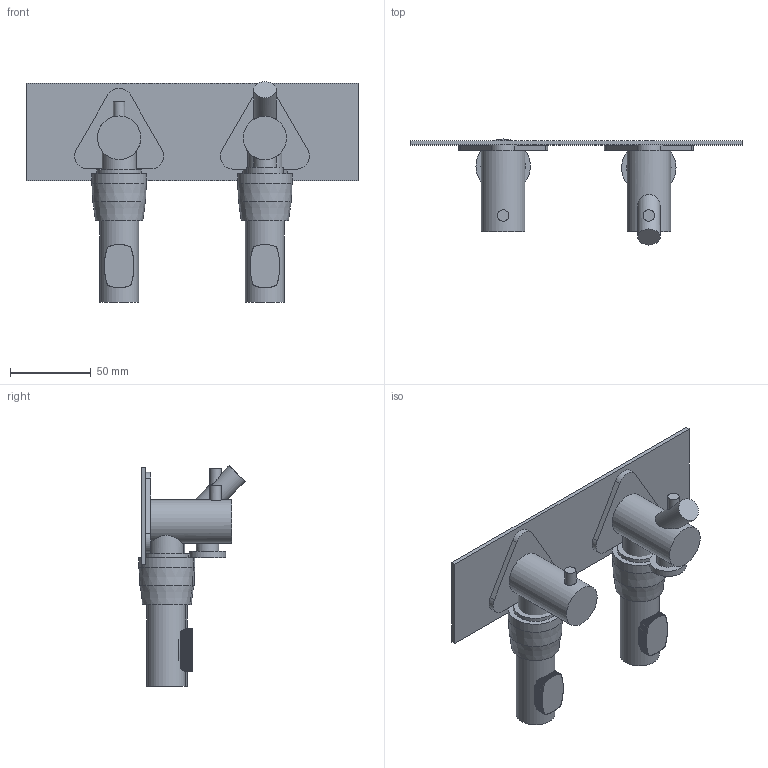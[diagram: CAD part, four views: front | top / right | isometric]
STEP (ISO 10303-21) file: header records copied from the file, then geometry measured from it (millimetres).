
FILE_DESCRIPTION(('STEP AP214'),'1');
FILE_NAME('Instaset_7871.STP','2025-09-15T14:45:38',(' '),(' '),'Spatial InterOp 3D',' ',' ');
FILE_SCHEMA(('AUTOMOTIVE_DESIGN { 1 0 10303 214 1 1 1 1 }'));
Length unit declared in the file: millimetre
Products named in the file (1): Zylinder
Bounding box: 205 x 65.58 x 136.13 mm (x, y, z)
Volume: 255567.3 mm3; surface area: 88973.1 mm2
Topology: 21 solids, 21 shells, 687 faces, 1918 edges, 1279 vertices
Faces by surface type: plane 654, cylinder 29, cone 4
Full cylindrical faces by diameter (mm): 0 x4, 7 x2, 13.867 x1, 14 x1, 20.954 x2, 21 x4, 22.622 x1, 24.04 x2, 26.818 x2, 27.32 x2, 33.62 x2
Entity records: 22111 total; most frequent: CARTESIAN_POINT 4258, ORIENTED_EDGE 3768, DIRECTION 3357, EDGE_CURVE 1884, LINE 1815, VECTOR 1815, VERTEX_POINT 1272, AXIS2_PLACEMENT_3D 771
